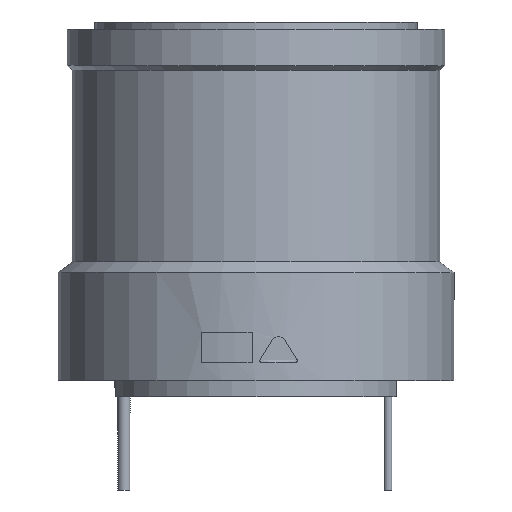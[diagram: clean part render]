
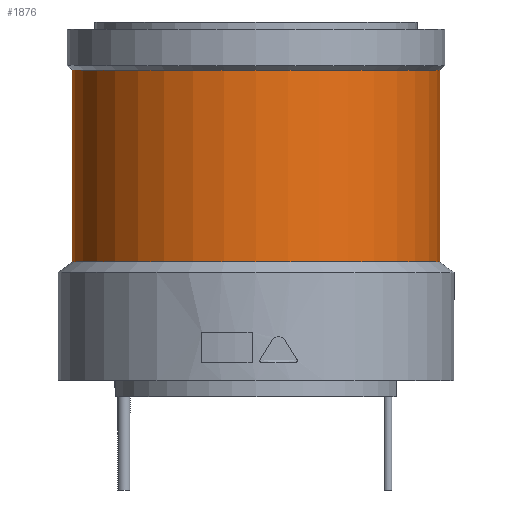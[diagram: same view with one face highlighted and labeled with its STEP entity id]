
A CAD part, left-side view. The second image highlights one B-rep face of the part: STEP entity #1876.
In plain terms, the highlighted cylindrical face has radius 122.5 mm (diameter 245 mm), a partial arc.
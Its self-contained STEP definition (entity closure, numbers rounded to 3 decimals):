
#1572 = CARTESIAN_POINT ( 'NONE',  ( 0., -122.5, 90. ) ) ;
#1573 = CARTESIAN_POINT ( 'NONE',  ( 0., 122.5, 90. ) ) ;
#1648 = LINE ( 'NONE', #1650, #1704 ) ;
#1650 = CARTESIAN_POINT ( 'NONE',  ( 0., 122.5, -72.556 ) ) ;
#1703 = DIRECTION ( 'NONE',  ( 0., 0., -1. ) ) ;
#1704 = VECTOR ( 'NONE', #1703, 1000. ) ;
#1841 = ORIENTED_EDGE ( 'NONE', *, *, #1881, .F. ) ;
#1845 = ORIENTED_EDGE ( 'NONE', *, *, #2069, .T. ) ;
#1875 = EDGE_LOOP ( 'NONE', ( #1880, #1845, #1877, #1841 ) ) ;
#1876 = ADVANCED_FACE ( 'NONE', ( #3314 ), #3265, .T. ) ;
#1877 = ORIENTED_EDGE ( 'NONE', *, *, #5228, .T. ) ;
#1880 = ORIENTED_EDGE ( 'NONE', *, *, #2404, .F. ) ;
#1881 = EDGE_CURVE ( 'NONE', #5176, #5174, #3309, .T. ) ;
#2069 = EDGE_CURVE ( 'NONE', #2399, #2397, #3329, .T. ) ;
#2397 = VERTEX_POINT ( 'NONE', #3573 ) ;
#2399 = VERTEX_POINT ( 'NONE', #3825 ) ;
#2404 = EDGE_CURVE ( 'NONE', #2399, #5176, #4306, .T. ) ;
#3265 = CYLINDRICAL_SURFACE ( 'NONE', #3319, 122.5 ) ;
#3281 = CARTESIAN_POINT ( 'NONE',  ( 0., 0., -72.556 ) ) ;
#3302 = DIRECTION ( 'NONE',  ( 0., 1., 0. ) ) ;
#3303 = DIRECTION ( 'NONE',  ( 0., 0., -1. ) ) ;
#3307 = DIRECTION ( 'NONE',  ( 0., 1., 0. ) ) ;
#3309 = CIRCLE ( 'NONE', #3316, 122.5 ) ;
#3311 = DIRECTION ( 'NONE',  ( 0., 0., -1. ) ) ;
#3314 = FACE_OUTER_BOUND ( 'NONE', #1875, .T. ) ;
#3315 = CARTESIAN_POINT ( 'NONE',  ( 0., 0., 90. ) ) ;
#3316 = AXIS2_PLACEMENT_3D ( 'NONE', #3315, #3303, #3302 ) ;
#3319 = AXIS2_PLACEMENT_3D ( 'NONE', #3281, #3311, #3307 ) ;
#3326 = DIRECTION ( 'NONE',  ( 0., 1., 0. ) ) ;
#3327 = DIRECTION ( 'NONE',  ( 0., 0., -1. ) ) ;
#3328 = CARTESIAN_POINT ( 'NONE',  ( 0., 0., 218. ) ) ;
#3329 = CIRCLE ( 'NONE', #3333, 122.5 ) ;
#3333 = AXIS2_PLACEMENT_3D ( 'NONE', #3328, #3327, #3326 ) ;
#3573 = CARTESIAN_POINT ( 'NONE',  ( 0., 122.5, 218. ) ) ;
#3825 = CARTESIAN_POINT ( 'NONE',  ( 0., -122.5, 218. ) ) ;
#4303 = DIRECTION ( 'NONE',  ( 0., 0., -1. ) ) ;
#4304 = VECTOR ( 'NONE', #4303, 1000. ) ;
#4305 = CARTESIAN_POINT ( 'NONE',  ( 0., -122.5, -72.556 ) ) ;
#4306 = LINE ( 'NONE', #4305, #4304 ) ;
#5174 = VERTEX_POINT ( 'NONE', #1573 ) ;
#5176 = VERTEX_POINT ( 'NONE', #1572 ) ;
#5228 = EDGE_CURVE ( 'NONE', #2397, #5174, #1648, .T. ) ;
